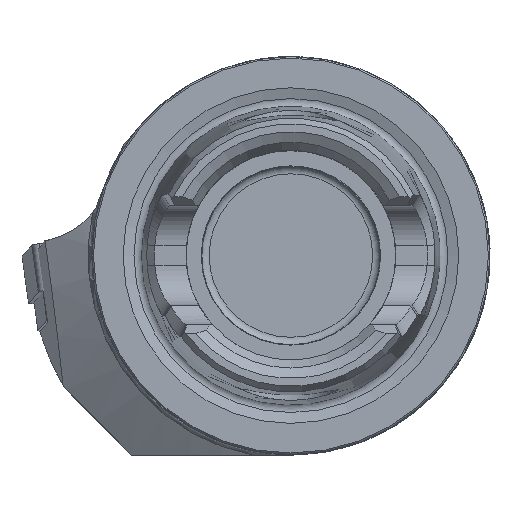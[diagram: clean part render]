
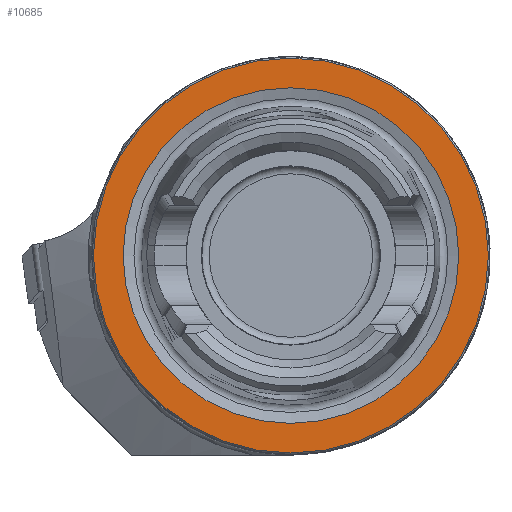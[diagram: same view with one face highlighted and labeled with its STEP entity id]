
A CAD part, top view. The second image highlights one B-rep face of the part: STEP entity #10685.
In plain terms, the highlighted planar face has unit normal (0, 0, 1).
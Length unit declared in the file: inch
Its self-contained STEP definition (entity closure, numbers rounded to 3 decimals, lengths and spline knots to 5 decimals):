
#10623=CARTESIAN_POINT('',(0.,-0.66321,0.0));
#10624=VERTEX_POINT('',#10623);
#10625=CARTESIAN_POINT('',(0.,0.,0.0));
#10626=DIRECTION('',(0.0,0.0,1.0));
#10627=DIRECTION('',(0.,-1.0,0.0));
#10628=AXIS2_PLACEMENT_3D('',#10625,#10626,#10627);
#10629=CIRCLE('',#10628,0.66321);
#10630=EDGE_CURVE('',#10624,#10624,#10629,.T.);
#10662=CARTESIAN_POINT('',(0.0,-0.78051,0.0));
#10663=VERTEX_POINT('',#10662);
#10664=CARTESIAN_POINT('',(0.,0.,0.0));
#10665=DIRECTION('',(0.0,0.0,1.0));
#10666=DIRECTION('',(0.,-1.0,0.0));
#10667=AXIS2_PLACEMENT_3D('',#10664,#10665,#10666);
#10668=CIRCLE('',#10667,0.78051);
#10669=EDGE_CURVE('',#10663,#10663,#10668,.T.);
#10674=CARTESIAN_POINT('',(-0.85856,0.85856,0.0));
#10675=DIRECTION('',(0.0,0.0,1.0));
#10676=DIRECTION('',(0.0,-1.0,0.0));
#10677=AXIS2_PLACEMENT_3D('',#10674,#10675,#10676);
#10678=PLANE('',#10677);
#10679=ORIENTED_EDGE('',*,*,#10669,.T.);
#10680=EDGE_LOOP('',(#10679));
#10681=FACE_OUTER_BOUND('',#10680,.T.);
#10682=ORIENTED_EDGE('',*,*,#10630,.F.);
#10683=EDGE_LOOP('',(#10682));
#10684=FACE_BOUND('',#10683,.T.);
#10685=ADVANCED_FACE('',(#10681,#10684),#10678,.T.);
